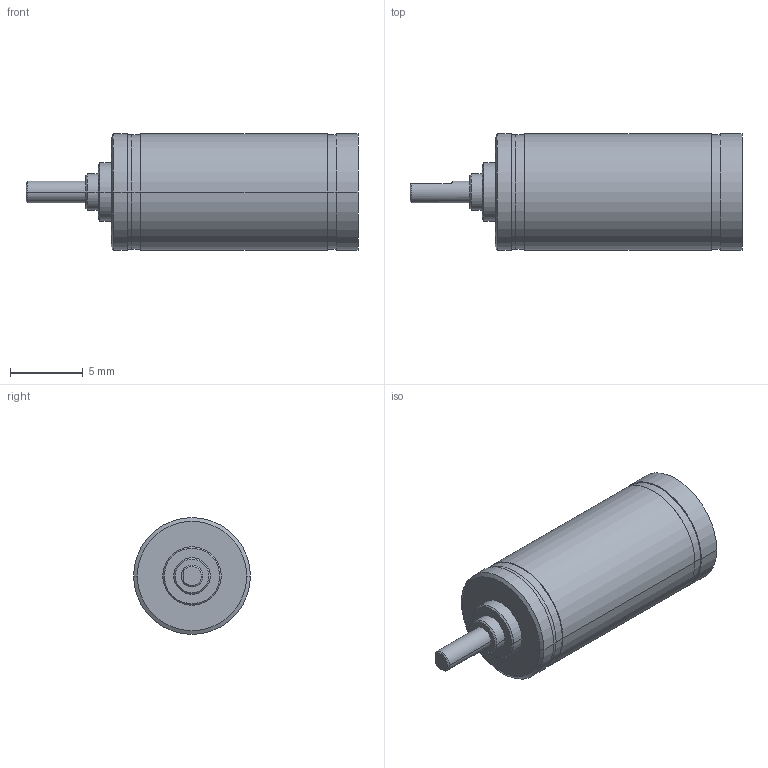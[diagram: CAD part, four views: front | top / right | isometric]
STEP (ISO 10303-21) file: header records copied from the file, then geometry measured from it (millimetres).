
FILE_DESCRIPTION((''),'2;1');
FILE_NAME('GP8A_4-STUFIG_381897','2013-05-21T',('MMAGPETK'),(''),'PRO/ENGINEER BY PARAMETRIC TECHNOLOGY CORPORATION, 2012010','PRO/ENGINEER BY PARAMETRIC TECHNOLOGY CORPORATION, 2012010','');
FILE_SCHEMA(('CONFIG_CONTROL_DESIGN'));
Length unit declared in the file: millimetre
Products named in the file (1): GP8A_4-STUFIG_381897
Bounding box: 22.75 x 8 x 8 mm (x, y, z)
Volume: 855.6 mm3; surface area: 592.4 mm2
Topology: 1 solids, 2 shells, 161 faces, 449 edges, 299 vertices
Faces by surface type: cylinder 111, extrusion 30, plane 13, cone 7
Entity records: 5445 total; most frequent: CARTESIAN_POINT 1153, DIRECTION 911, ORIENTED_EDGE 898, EDGE_CURVE 449, AXIS2_PLACEMENT_3D 365, VERTEX_POINT 299, CIRCLE 234, VECTOR 181
